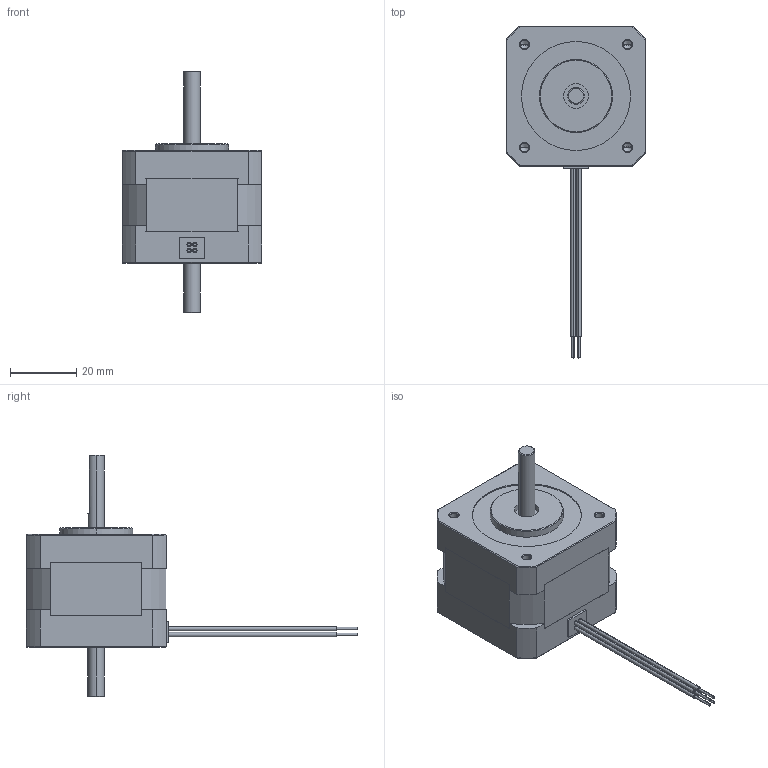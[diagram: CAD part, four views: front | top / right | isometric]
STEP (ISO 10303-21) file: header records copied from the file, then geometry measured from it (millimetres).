
FILE_DESCRIPTION (( 'STEP AP214' ), '1' );
FILE_NAME ('17Y102D-LW4.STEP', '2010-05-11T20:55:35', ( 'Tim Raines' ), ( 'Anaheim Automation' ), 'SwSTEP 2.0', 'SolidWorks 2010', '' );
FILE_SCHEMA (( 'AUTOMOTIVE_DESIGN' ));
Length unit declared in the file: inch
Products named in the file (1): 17Y102D-LW4
Bounding box: 42.16 x 99.95 x 72.85 mm (x, y, z)
Volume: 59634.2 mm3; surface area: 11511.9 mm2
Topology: 1 solids, 1 shells, 244 faces, 577 edges, 358 vertices
Faces by surface type: plane 113, cylinder 76, cone 47, torus 8
Entity records: 9993 total; most frequent: DIRECTION 1242, CARTESIAN_POINT 1222, ORIENTED_EDGE 1130, EDGE_CURVE 565, AXIS2_PLACEMENT_3D 450, VERTEX_POINT 358, VECTOR 342, LINE 342
